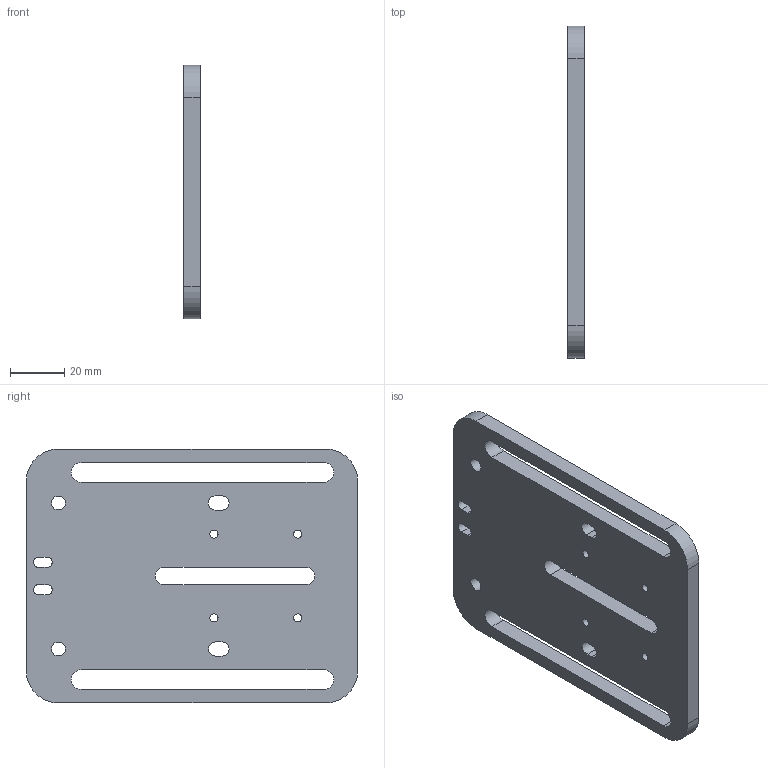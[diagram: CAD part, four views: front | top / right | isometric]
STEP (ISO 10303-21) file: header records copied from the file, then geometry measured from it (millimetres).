
FILE_DESCRIPTION(/* description */ ('STEP AP242 Edition 2','CAx-IF Rec.Pracs.---Representation and Presentation of Product Manufacturing Information (PMI)---4.0---2014-10-13','CAx-IF Rec.Pracs.---3D Tessellated Geometry---0.4---2014-09-14','2;1','CAx-IF Rec.Pracs.---User Defined Attributes---1.5---2016-08-15'),/* implementation_level */ '2;1');
FILE_NAME(/* name */ 'Final Build - X-axis carriage mount',/* time_stamp */ '2026-08-31T23:26:50Z',/* author */ (''),/* organization */ (''),/* preprocessor_version */ 'ST-DEVELOPER v20',/* originating_system */ 'ONSHAPE BY PTC INC, 1.220',/* authorisation */ ' ');
FILE_SCHEMA (('AP242_MANAGED_MODEL_BASED_3D_ENGINEERING_MIM_LF { 1 0 10303 442 3 1 4 }'));
Length unit declared in the file: metre
Products named in the file (1): X-axis carriage mount
Bounding box: 6 x 122.65 x 93.89 mm (x, y, z)
Volume: 56718 mm3; surface area: 25456.5 mm2
Topology: 1 solids, 1 shells, 44 faces, 126 edges, 84 vertices
Faces by surface type: cylinder 24, plane 20
Full cylindrical faces by diameter (mm): 2.998 x4, 5.156 x2
Entity records: 1502 total; most frequent: DIRECTION 258, CARTESIAN_POINT 249, ORIENTED_EDGE 240, EDGE_CURVE 120, AXIS2_PLACEMENT_3D 93, VERTEX_POINT 84, EDGE_LOOP 76, FACE_BOUND 76
